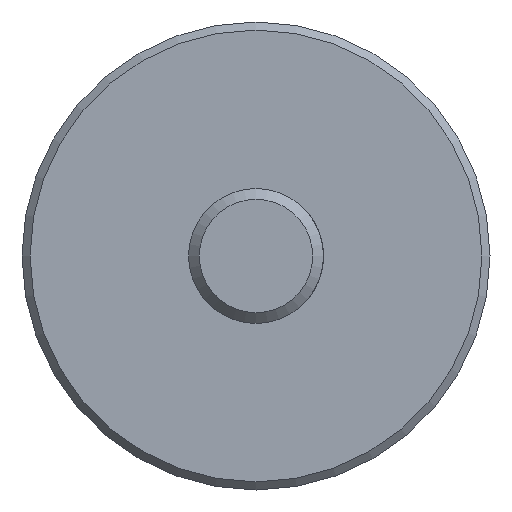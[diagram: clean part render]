
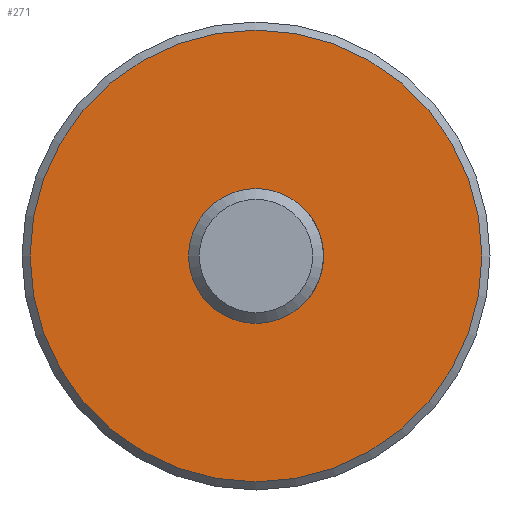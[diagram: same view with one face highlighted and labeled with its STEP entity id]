
A CAD part, front view. The second image highlights one B-rep face of the part: STEP entity #271.
In plain terms, the highlighted planar face has unit normal (0, -1, 0).
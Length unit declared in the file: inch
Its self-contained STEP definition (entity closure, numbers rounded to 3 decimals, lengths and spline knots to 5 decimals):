
#11 = VERTEX_POINT ( 'NONE', #324 ) ;
#12 = DIRECTION ( 'NONE',  ( 0., 0., 1. ) ) ;
#41 = DIRECTION ( 'NONE',  ( 0., 1., 0. ) ) ;
#63 = DIRECTION ( 'NONE',  ( 0., 1., 0. ) ) ;
#74 = FACE_OUTER_BOUND ( 'NONE', #524, .T. ) ;
#75 = EDGE_CURVE ( 'NONE', #371, #371, #564, .T. ) ;
#109 = CARTESIAN_POINT ( 'NONE',  ( 0., 3.35, 1.255 ) ) ;
#202 = EDGE_LOOP ( 'NONE', ( #417 ) ) ;
#207 = AXIS2_PLACEMENT_3D ( 'NONE', #326, #361, #537 ) ;
#219 = DIRECTION ( 'NONE',  ( 0., 0., 1. ) ) ;
#231 = CIRCLE ( 'NONE', #555, 0.375 ) ;
#251 = FACE_BOUND ( 'NONE', #202, .T. ) ;
#256 = EDGE_CURVE ( 'NONE', #11, #11, #231, .T. ) ;
#271 = ADVANCED_FACE ( 'NONE', ( #74, #251 ), #431, .F. ) ;
#324 = CARTESIAN_POINT ( 'NONE',  ( 0., 3.35, 0.375 ) ) ;
#326 = CARTESIAN_POINT ( 'NONE',  ( 0.375, 3.35, 0. ) ) ;
#361 = DIRECTION ( 'NONE',  ( 0., 1., 0. ) ) ;
#371 = VERTEX_POINT ( 'NONE', #109 ) ;
#381 = CARTESIAN_POINT ( 'NONE',  ( 0., 3.35, 0. ) ) ;
#411 = AXIS2_PLACEMENT_3D ( 'NONE', #381, #63, #12 ) ;
#417 = ORIENTED_EDGE ( 'NONE', *, *, #256, .T. ) ;
#421 = ORIENTED_EDGE ( 'NONE', *, *, #75, .F. ) ;
#431 = PLANE ( 'NONE',  #207 ) ;
#524 = EDGE_LOOP ( 'NONE', ( #421 ) ) ;
#537 = DIRECTION ( 'NONE',  ( 0., 0., 1. ) ) ;
#555 = AXIS2_PLACEMENT_3D ( 'NONE', #558, #41, #219 ) ;
#558 = CARTESIAN_POINT ( 'NONE',  ( 0., 3.35, 0. ) ) ;
#564 = CIRCLE ( 'NONE', #411, 1.255 ) ;
